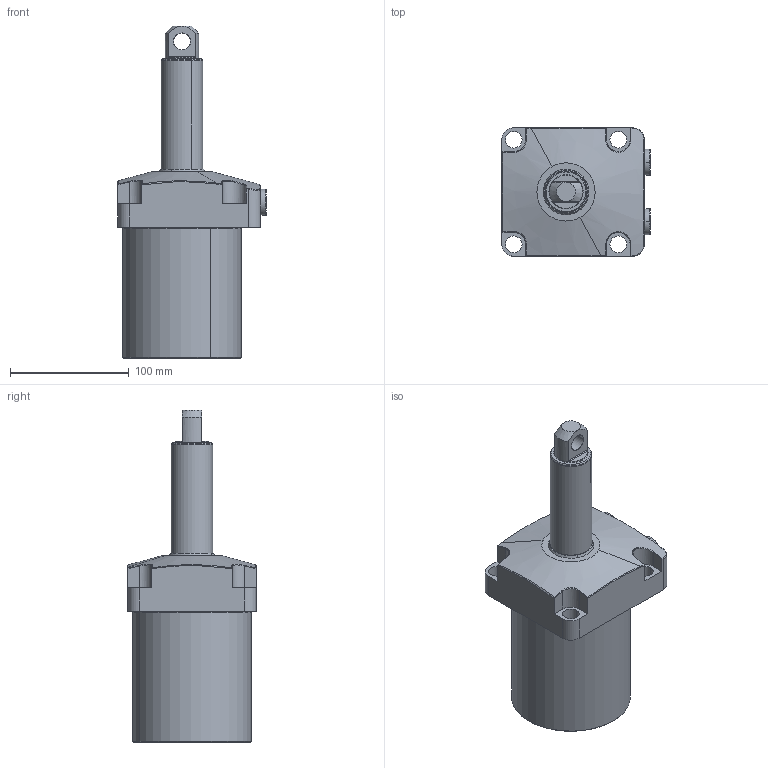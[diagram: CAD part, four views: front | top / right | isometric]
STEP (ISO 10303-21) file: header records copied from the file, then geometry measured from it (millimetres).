
FILE_DESCRIPTION(('CATIA V5 STEP Exchange'),'2;1');
FILE_NAME('C:\Users\kong\Desktop\GCD-25-90X.stp','2014-11-04T06:49:08+00:00',('none'),('none'),'CATIA Version 5 Release 17 (IN-10)','CATIA V5 STEP AP203','none');
FILE_SCHEMA(('CONFIG_CONTROL_DESIGN'));
Length unit declared in the file: millimetre
Products named in the file (1): Product1
Assembly tree (4 placements, depth 2):
  Product1
    #56
    #5374
    #6212  x2
Bounding box: 124.81 x 108 x 279.5 mm (x, y, z)
Volume: 1376627.3 mm3; surface area: 110304.3 mm2
Topology: 4 solids, 4 shells, 169 faces, 416 edges, 270 vertices
Faces by surface type: plane 55, cylinder 52, cone 30, bspline 22, torus 10
Entity records: 6872 total; most frequent: CARTESIAN_POINT 3649, ORIENTED_EDGE 740, DIRECTION 449, EDGE_CURVE 370, VERTEX_POINT 242, AXIS2_PLACEMENT_3D 223, EDGE_LOOP 170, ADVANCED_FACE 147
